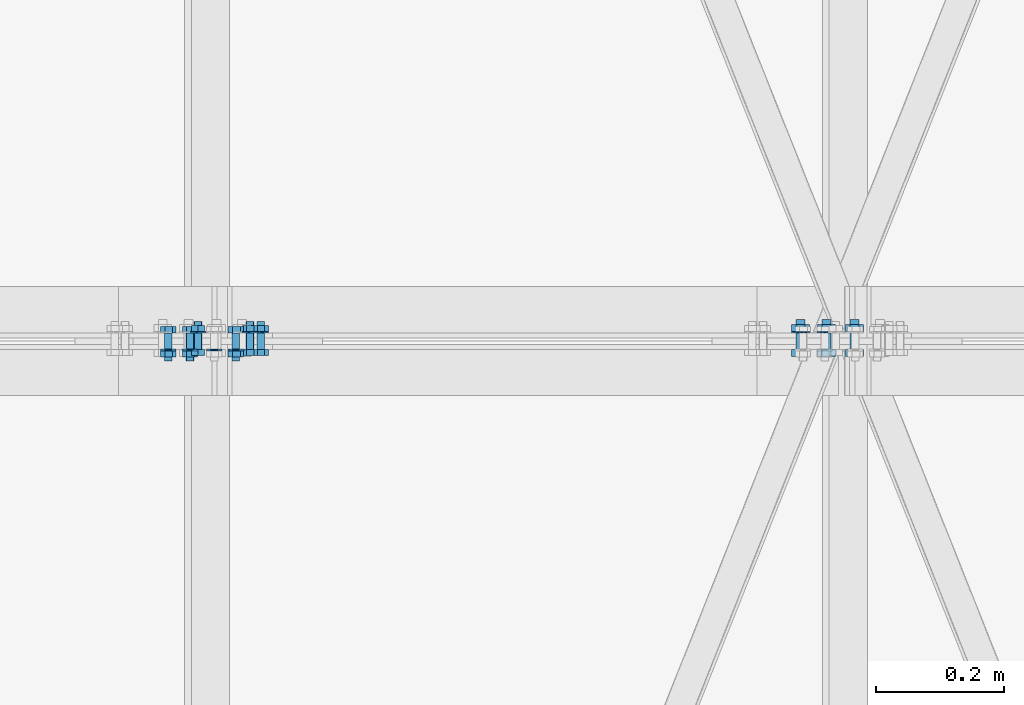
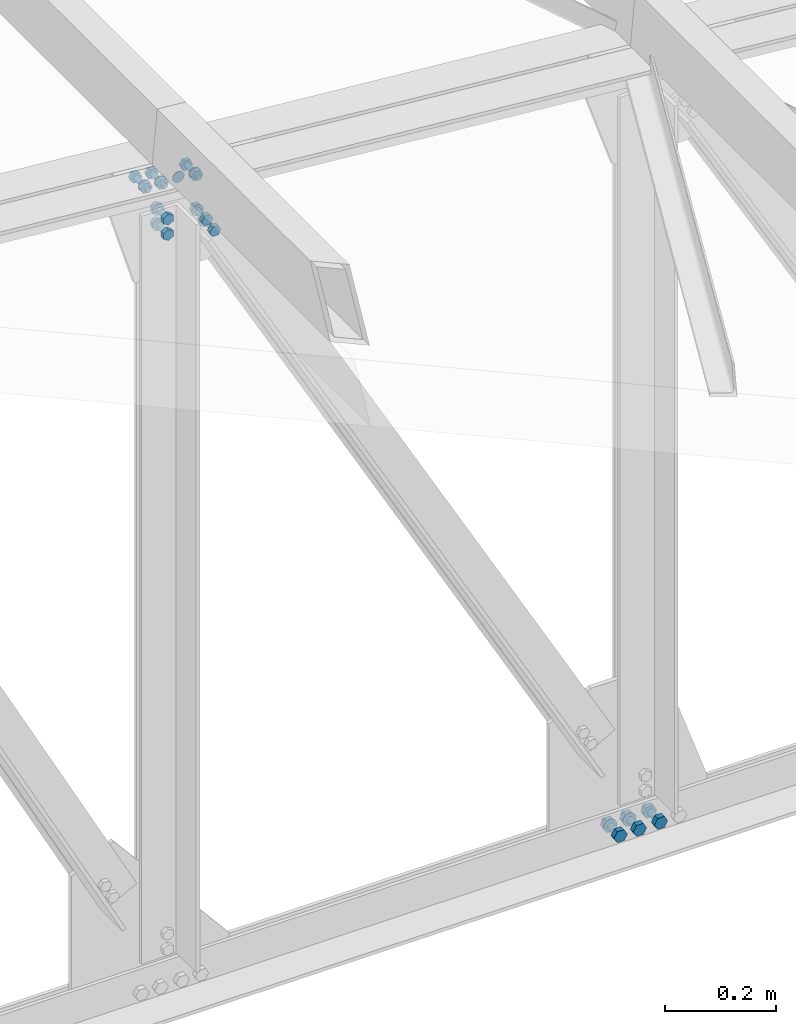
# One storey, part 82 of 251: 40 mechanical fasteners.
"""IFC4 building model written with IfcOpenShell, lengths in metres."""

from ifc_helpers import new_model, si_unit, frame, origin_with_axes, place, context, project, spatial, polyline, outline, extrude, type_object, element, save


model = new_model("IFC4")

# Units and contexts
model_context = context("Model", 3, precision=1e-05, world=origin_with_axes())
ifc_project = project(units=[si_unit("LENGTHUNIT", "METRE"), si_unit("AREAUNIT", "SQUARE_METRE"), si_unit("VOLUMEUNIT", "CUBIC_METRE"), si_unit("MASSUNIT", "GRAM", prefix="KILO"), si_unit("TIMEUNIT", "SECOND"), si_unit("PLANEANGLEUNIT", "RADIAN"), si_unit("SOLIDANGLEUNIT", "STERADIAN"), si_unit("THERMODYNAMICTEMPERATUREUNIT", "DEGREE_CELSIUS")], contexts=[model_context])

# Site, building, storey
placement_1 = place(None, origin_with_axes())
site = spatial("IfcSite", under=ifc_project, at=placement_1, Name="Italia", CompositionType="ELEMENT")
building = spatial("IfcBuilding", under=site, at=placement_1, Name="Deposito", CompositionType="ELEMENT")
storey = spatial("IfcBuildingStorey", under=building, at=placement_1, Name="Storey 0", CompositionType="ELEMENT", Elevation=0.0)

# Mechanical fasteners
mechanical_fastener_type_1 = type_object("IfcMechanicalFastenerType", Name="Reticolare 3", PredefinedType="BOLT")
placement_2 = place(placement_1, origin_with_axes())
mechanical_fastener_1_placement = place(placement_2, origin_with_axes())
element("IfcMechanicalFastener", 1, at=mechanical_fastener_1_placement, inside=storey, type_object=mechanical_fastener_type_1, Name="Reticolare 3", NominalDiameter=0.0139997, context=model_context, shape_type="SweptSolid", body=[
    extrude(outline(polyline([(0.0, 0.0), (-0.0139999, 0.0), (-0.0209999, 0.0121241), (-0.0139999, 0.0242486), (0.0, 0.0242486), (0.00699997, 0.0121241), (0.0, 0.0)])), frame((12.0154, 4.987, 4.99688), z_axis=(0.0, -1.0, 0.0), x_axis=(1.0, 0.0, 0.0)), (0.0, 0.0, 1.0), 0.0112),
])
mechanical_fastener_type_2 = type_object("IfcMechanicalFastenerType", Name="Reticolare 3", PredefinedType="BOLT")
mechanical_fastener_2_placement = place(placement_2, origin_with_axes())
element("IfcMechanicalFastener", 2, at=mechanical_fastener_2_placement, inside=storey, type_object=mechanical_fastener_type_2, Name="Reticolare 3", NominalDiameter=0.014, context=model_context, shape_type="SweptSolid", body=[
    extrude(outline(polyline([(0.0, 0.0), (-0.000238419, -0.0018115), (-0.000937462, -0.00349998), (-0.0020504, -0.00494957), (-0.00349998, -0.00606203), (-0.00518799, -0.00676155), (-0.00699997, -0.00699997), (-0.00881195, -0.00676155), (-0.0105, -0.00606203), (-0.0119495, -0.00494957), (-0.0130625, -0.00349998), (-0.0137615, -0.0018115), (-0.0139999, 0.0), (-0.0137615, 0.0018115), (-0.0130625, 0.00349998), (-0.0119495, 0.00494957), (-0.0105, 0.00606203), (-0.00881195, 0.00676155), (-0.00699997, 0.00699997), (-0.00518799, 0.00676155), (-0.00349998, 0.00606203), (-0.0020504, 0.00494957), (-0.000937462, 0.00349998), (-0.000238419, 0.0018115), (0.0, 0.0)])), frame((12.0154, 5.034, 5.009), z_axis=(0.0, -1.0, 0.0), x_axis=(1.0, 0.0, 0.0)), (0.0, 0.0, 1.0), 0.0469999),
])
mechanical_fastener_type_3 = type_object("IfcMechanicalFastenerType", Name="Reticolare 3", PredefinedType="BOLT")
mechanical_fastener_3_placement = place(placement_2, origin_with_axes())
element("IfcMechanicalFastener", 3, at=mechanical_fastener_3_placement, inside=storey, type_object=mechanical_fastener_type_3, Name="Reticolare 3", NominalDiameter=0.0139997, context=model_context, shape_type="SweptSolid", body=[
    extrude(outline(polyline([(0.0, 0.0), (-0.0139999, 0.0), (-0.0209999, 0.0121241), (-0.0139999, 0.0242486), (0.0, 0.0242486), (0.00699997, 0.0121241), (0.0, 0.0)])), frame((12.0154, 5.0262, 4.99688), z_axis=(0.0, -1.0, 0.0), x_axis=(1.0, 0.0, 0.0)), (0.0, 0.0, 1.0), 0.0112),
])
mechanical_fastener_type_4 = type_object("IfcMechanicalFastenerType", Name="Reticolare 3", PredefinedType="BOLT")
mechanical_fastener_4_placement = place(placement_2, origin_with_axes())
element("IfcMechanicalFastener", 4, at=mechanical_fastener_4_placement, inside=storey, type_object=mechanical_fastener_type_4, Name="Reticolare 3", NominalDiameter=0.028, context=model_context, shape_type="SweptSolid", body=[
    extrude(outline(polyline([(0.0, 0.0), (-0.000476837, -0.00362349), (-0.00187588, -0.00699997), (-0.0041008, -0.00989962), (-0.00699997, -0.0121245), (-0.0103769, -0.0135231), (-0.0139999, -0.0139999), (-0.0176229, -0.0135231), (-0.0209999, -0.0121245), (-0.0238991, -0.00989962), (-0.026124, -0.00699997), (-0.027523, -0.00362349), (-0.0279999, 0.0), (-0.027523, 0.00362349), (-0.026124, 0.00699997), (-0.0238991, 0.00989962), (-0.0209999, 0.0121245), (-0.0176229, 0.0135231), (-0.0139999, 0.0139999), (-0.0103769, 0.0135231), (-0.00699997, 0.0121245), (-0.0041008, 0.00989962), (-0.00187588, 0.00699997), (-0.000476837, 0.00362349), (0.0, 0.0)])), frame((12.0224, 5.015, 5.009), z_axis=(0.0, -1.0, 0.0), x_axis=(1.0, 0.0, 0.0)), (0.0, 0.0, 1.0), 0.00199986),
])
mechanical_fastener_type_5 = type_object("IfcMechanicalFastenerType", Name="Reticolare 3", PredefinedType="BOLT")
mechanical_fastener_5_placement = place(placement_2, origin_with_axes())
element("IfcMechanicalFastener", 5, at=mechanical_fastener_5_placement, inside=storey, type_object=mechanical_fastener_type_5, Name="Reticolare 3", NominalDiameter=0.0139997, context=model_context, shape_type="SweptSolid", body=[
    extrude(outline(polyline([(0.0, 0.0), (-0.0139999, 0.0), (-0.0209999, 0.0121241), (-0.0139999, 0.0242486), (0.0, 0.0242486), (0.00699997, 0.0121241), (0.0, 0.0)])), frame((11.9754, 4.987, 4.99688), z_axis=(0.0, -1.0, 0.0), x_axis=(1.0, 0.0, 0.0)), (0.0, 0.0, 1.0), 0.0112),
])
mechanical_fastener_type_6 = type_object("IfcMechanicalFastenerType", Name="Reticolare 3", PredefinedType="BOLT")
mechanical_fastener_6_placement = place(placement_2, origin_with_axes())
element("IfcMechanicalFastener", 6, at=mechanical_fastener_6_placement, inside=storey, type_object=mechanical_fastener_type_6, Name="Reticolare 3", NominalDiameter=0.014, context=model_context, shape_type="SweptSolid", body=[
    extrude(outline(polyline([(0.0, 0.0), (-0.000238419, -0.0018115), (-0.000937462, -0.00349998), (-0.0020504, -0.00494957), (-0.00349998, -0.00606203), (-0.00518799, -0.00676155), (-0.00699997, -0.00699997), (-0.00881195, -0.00676155), (-0.0105, -0.00606203), (-0.0119495, -0.00494957), (-0.0130625, -0.00349998), (-0.0137615, -0.0018115), (-0.0139999, 0.0), (-0.0137615, 0.0018115), (-0.0130625, 0.00349998), (-0.0119495, 0.00494957), (-0.0105, 0.00606203), (-0.00881195, 0.00676155), (-0.00699997, 0.00699997), (-0.00518799, 0.00676155), (-0.00349998, 0.00606203), (-0.0020504, 0.00494957), (-0.000937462, 0.00349998), (-0.000238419, 0.0018115), (0.0, 0.0)])), frame((11.9754, 5.034, 5.009), z_axis=(0.0, -1.0, 0.0), x_axis=(1.0, 0.0, 0.0)), (0.0, 0.0, 1.0), 0.0469999),
])
mechanical_fastener_type_7 = type_object("IfcMechanicalFastenerType", Name="Reticolare 3", PredefinedType="BOLT")
mechanical_fastener_7_placement = place(placement_2, origin_with_axes())
element("IfcMechanicalFastener", 7, at=mechanical_fastener_7_placement, inside=storey, type_object=mechanical_fastener_type_7, Name="Reticolare 3", NominalDiameter=0.0139997, context=model_context, shape_type="SweptSolid", body=[
    extrude(outline(polyline([(0.0, 0.0), (-0.0139999, 0.0), (-0.0209999, 0.0121241), (-0.0139999, 0.0242486), (0.0, 0.0242486), (0.00699997, 0.0121241), (0.0, 0.0)])), frame((11.9754, 5.0262, 4.99688), z_axis=(0.0, -1.0, 0.0), x_axis=(1.0, 0.0, 0.0)), (0.0, 0.0, 1.0), 0.0112),
])
mechanical_fastener_type_8 = type_object("IfcMechanicalFastenerType", Name="Reticolare 3", PredefinedType="BOLT")
mechanical_fastener_8_placement = place(placement_2, origin_with_axes())
element("IfcMechanicalFastener", 8, at=mechanical_fastener_8_placement, inside=storey, type_object=mechanical_fastener_type_8, Name="Reticolare 3", NominalDiameter=0.028, context=model_context, shape_type="SweptSolid", body=[
    extrude(outline(polyline([(0.0, 0.0), (-0.000476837, -0.00362349), (-0.00187588, -0.00699997), (-0.0041008, -0.00989962), (-0.00699997, -0.0121245), (-0.0103769, -0.0135231), (-0.0139999, -0.0139999), (-0.0176229, -0.0135231), (-0.0209999, -0.0121245), (-0.0238991, -0.00989962), (-0.026124, -0.00699997), (-0.027523, -0.00362349), (-0.0279999, 0.0), (-0.027523, 0.00362349), (-0.026124, 0.00699997), (-0.0238991, 0.00989962), (-0.0209999, 0.0121245), (-0.0176229, 0.0135231), (-0.0139999, 0.0139999), (-0.0103769, 0.0135231), (-0.00699997, 0.0121245), (-0.0041008, 0.00989962), (-0.00187588, 0.00699997), (-0.000476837, 0.00362349), (0.0, 0.0)])), frame((11.9824, 5.015, 5.009), z_axis=(0.0, -1.0, 0.0), x_axis=(1.0, 0.0, 0.0)), (0.0, 0.0, 1.0), 0.00199986),
])
mechanical_fastener_type_9 = type_object("IfcMechanicalFastenerType", Name="Reticolare 3", PredefinedType="BOLT")
mechanical_fastener_9_placement = place(placement_2, origin_with_axes())
element("IfcMechanicalFastener", 9, at=mechanical_fastener_9_placement, inside=storey, type_object=mechanical_fastener_type_9, Name="Reticolare 3", NominalDiameter=0.0139997, context=model_context, shape_type="SweptSolid", body=[
    extrude(outline(polyline([(0.0, 0.0), (-0.0139999, 0.0), (-0.0209999, 0.0121241), (-0.0139999, 0.0242486), (0.0, 0.0242486), (0.00699997, 0.0121241), (0.0, 0.0)])), frame((12.0594, 4.987, 4.99688), z_axis=(0.0, -1.0, 0.0), x_axis=(1.0, 0.0, 0.0)), (0.0, 0.0, 1.0), 0.0112),
])
mechanical_fastener_type_10 = type_object("IfcMechanicalFastenerType", Name="Reticolare 3", PredefinedType="BOLT")
mechanical_fastener_10_placement = place(placement_2, origin_with_axes())
element("IfcMechanicalFastener", 10, at=mechanical_fastener_10_placement, inside=storey, type_object=mechanical_fastener_type_10, Name="Reticolare 3", NominalDiameter=0.014, context=model_context, shape_type="SweptSolid", body=[
    extrude(outline(polyline([(0.0, 0.0), (-0.000238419, -0.0018115), (-0.000937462, -0.00349998), (-0.0020504, -0.00494957), (-0.00349998, -0.00606203), (-0.00518799, -0.00676155), (-0.00699997, -0.00699997), (-0.00881195, -0.00676155), (-0.0105, -0.00606203), (-0.0119495, -0.00494957), (-0.0130625, -0.00349998), (-0.0137615, -0.0018115), (-0.0139999, 0.0), (-0.0137615, 0.0018115), (-0.0130625, 0.00349998), (-0.0119495, 0.00494957), (-0.0105, 0.00606203), (-0.00881195, 0.00676155), (-0.00699997, 0.00699997), (-0.00518799, 0.00676155), (-0.00349998, 0.00606203), (-0.0020504, 0.00494957), (-0.000937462, 0.00349998), (-0.000238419, 0.0018115), (0.0, 0.0)])), frame((12.0594, 5.034, 5.009), z_axis=(0.0, -1.0, 0.0), x_axis=(1.0, 0.0, 0.0)), (0.0, 0.0, 1.0), 0.0469999),
])
mechanical_fastener_type_11 = type_object("IfcMechanicalFastenerType", Name="Reticolare 3", PredefinedType="BOLT")
mechanical_fastener_11_placement = place(placement_2, origin_with_axes())
element("IfcMechanicalFastener", 11, at=mechanical_fastener_11_placement, inside=storey, type_object=mechanical_fastener_type_11, Name="Reticolare 3", NominalDiameter=0.0139997, context=model_context, shape_type="SweptSolid", body=[
    extrude(outline(polyline([(0.0, 0.0), (-0.0139999, 0.0), (-0.0209999, 0.0121241), (-0.0139999, 0.0242486), (0.0, 0.0242486), (0.00699997, 0.0121241), (0.0, 0.0)])), frame((12.0594, 5.0262, 4.99688), z_axis=(0.0, -1.0, 0.0), x_axis=(1.0, 0.0, 0.0)), (0.0, 0.0, 1.0), 0.0112),
])
mechanical_fastener_type_12 = type_object("IfcMechanicalFastenerType", Name="Reticolare 3", PredefinedType="BOLT")
mechanical_fastener_12_placement = place(placement_2, origin_with_axes())
element("IfcMechanicalFastener", 12, at=mechanical_fastener_12_placement, inside=storey, type_object=mechanical_fastener_type_12, Name="Reticolare 3", NominalDiameter=0.024, context=model_context, shape_type="SweptSolid", body=[
    extrude(outline(polyline([(0.0, 0.0), (-0.000409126, -0.00310564), (-0.00160789, -0.00600004), (-0.00351524, -0.00848532), (-0.00600052, -0.0103922), (-0.00889397, -0.011591), (-0.0120001, -0.0120001), (-0.0151062, -0.011591), (-0.0179996, -0.0103922), (-0.0204849, -0.00848532), (-0.0223923, -0.00600004), (-0.023591, -0.00310564), (-0.0240002, 0.0), (-0.023591, 0.00310564), (-0.0223923, 0.00600004), (-0.0204849, 0.00848532), (-0.0179996, 0.0103922), (-0.0151062, 0.011591), (-0.0120001, 0.0120001), (-0.00889397, 0.011591), (-0.00600052, 0.0103922), (-0.00351524, 0.00848532), (-0.00160789, 0.00600004), (-0.000409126, 0.00310564), (0.0, 0.0)])), frame((11.0406, 4.985, 6.77577), z_axis=(0.0, 1.0, 0.0), x_axis=(-1.0, 0.0, 0.0)), (0.0, 0.0, 1.0), 0.00199986),
])
mechanical_fastener_type_13 = type_object("IfcMechanicalFastenerType", Name="Reticolare 3", PredefinedType="BOLT")
mechanical_fastener_13_placement = place(placement_2, origin_with_axes())
element("IfcMechanicalFastener", 13, at=mechanical_fastener_13_placement, inside=storey, type_object=mechanical_fastener_type_13, Name="Reticolare 3", NominalDiameter=0.0119996, context=model_context, shape_type="SweptSolid", body=[
    extrude(outline(polyline([(0.0, 0.0), (0.0119543, 0.0010457), (0.0188379, -0.00878382), (0.0137663, -0.0196595), (0.00181198, -0.0207052), (-0.00507069, -0.0108757), (0.0, 0.0)])), frame((11.0933, 5.013, 6.78264), z_axis=(0.0, 1.0, 0.0), x_axis=(-1.0, 0.0, 0.0)), (0.0, 0.0, 1.0), 0.00960016),
])
mechanical_fastener_type_14 = type_object("IfcMechanicalFastenerType", Name="Reticolare 3", PredefinedType="BOLT")
mechanical_fastener_14_placement = place(placement_2, origin_with_axes())
element("IfcMechanicalFastener", 14, at=mechanical_fastener_14_placement, inside=storey, type_object=mechanical_fastener_type_14, Name="Reticolare 3", NominalDiameter=0.012, context=model_context, shape_type="SweptSolid", body=[
    extrude(outline(polyline([(0.0, 0.0), (-0.000204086, -0.00155306), (-0.000802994, -0.00299978), (-0.00175667, -0.00424242), (-0.00299931, -0.00519609), (-0.00444698, -0.00579548), (-0.00599957, -0.00600004), (-0.00755215, -0.00579548), (-0.00899982, -0.00519609), (-0.0102425, -0.00424242), (-0.0111961, -0.00299978), (-0.011795, -0.00155306), (-0.0119991, 0.0), (-0.011795, 0.00155306), (-0.0111961, 0.00299978), (-0.0102425, 0.00424242), (-0.00899982, 0.00519609), (-0.00755215, 0.00579548), (-0.00599957, 0.00600004), (-0.00444698, 0.00579548), (-0.00299931, 0.00519609), (-0.00175667, 0.00424242), (-0.000802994, 0.00299978), (-0.000204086, 0.00155306), (0.0, 0.0)])), frame((11.0804, 4.969, 6.77281), z_axis=(0.0, 1.0, 0.0), x_axis=(-1.0, 0.0, 0.0)), (0.0, 0.0, 1.0), 0.0440001),
])
mechanical_fastener_type_15 = type_object("IfcMechanicalFastenerType", Name="Reticolare 3", PredefinedType="BOLT")
mechanical_fastener_15_placement = place(placement_2, origin_with_axes())
element("IfcMechanicalFastener", 15, at=mechanical_fastener_15_placement, inside=storey, type_object=mechanical_fastener_type_15, Name="Reticolare 3", NominalDiameter=0.0119996, context=model_context, shape_type="SweptSolid", body=[
    extrude(outline(polyline([(0.0, 0.0), (0.0119543, 0.0010457), (0.0188379, -0.00878382), (0.0137663, -0.0196595), (0.00181198, -0.0207052), (-0.00507069, -0.0108757), (0.0, 0.0)])), frame((11.0933, 4.9754, 6.78264), z_axis=(0.0, 1.0, 0.0), x_axis=(-1.0, 0.0, 0.0)), (0.0, 0.0, 1.0), 0.00960016),
])
mechanical_fastener_type_16 = type_object("IfcMechanicalFastenerType", Name="Reticolare 3", PredefinedType="BOLT")
mechanical_fastener_16_placement = place(placement_2, origin_with_axes())
element("IfcMechanicalFastener", 16, at=mechanical_fastener_16_placement, inside=storey, type_object=mechanical_fastener_type_16, Name="Reticolare 3", NominalDiameter=0.024, context=model_context, shape_type="SweptSolid", body=[
    extrude(outline(polyline([(0.0, 0.0), (-0.000409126, -0.00310564), (-0.00160789, -0.00600004), (-0.00351524, -0.00848532), (-0.00600052, -0.0103922), (-0.00889397, -0.011591), (-0.0120001, -0.0120001), (-0.0151062, -0.011591), (-0.0179996, -0.0103922), (-0.0204849, -0.00848532), (-0.0223923, -0.00600004), (-0.023591, -0.00310564), (-0.0240002, 0.0), (-0.023591, 0.00310564), (-0.0223923, 0.00600004), (-0.0204849, 0.00848532), (-0.0179996, 0.0103922), (-0.0151062, 0.011591), (-0.0120001, 0.0120001), (-0.00889397, 0.011591), (-0.00600052, 0.0103922), (-0.00351524, 0.00848532), (-0.00160789, 0.00600004), (-0.000409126, 0.00310564), (0.0, 0.0)])), frame((11.0744, 4.985, 6.77281), z_axis=(0.0, 1.0, 0.0), x_axis=(-1.0, 0.0, 0.0)), (0.0, 0.0, 1.0), 0.00199986),
])
mechanical_fastener_type_17 = type_object("IfcMechanicalFastenerType", Name="Reticolare 3", PredefinedType="BOLT")
mechanical_fastener_17_placement = place(placement_2, origin_with_axes())
element("IfcMechanicalFastener", 17, at=mechanical_fastener_17_placement, inside=storey, type_object=mechanical_fastener_type_17, Name="Reticolare 3", NominalDiameter=0.0119996, context=model_context, shape_type="SweptSolid", body=[
    extrude(outline(polyline([(0.0, 0.0), (0.0119543, 0.00104618), (0.018837, -0.00878382), (0.0137653, -0.0196595), (0.00181103, -0.0207052), (-0.00507164, -0.0108757), (0.0, 0.0)])), frame((11.0216, 5.013, 6.78891), z_axis=(0.0, 1.0, 0.0), x_axis=(-1.0, 0.0, 0.0)), (0.0, 0.0, 1.0), 0.00960016),
])
mechanical_fastener_type_18 = type_object("IfcMechanicalFastenerType", Name="Reticolare 3", PredefinedType="BOLT")
mechanical_fastener_18_placement = place(placement_2, origin_with_axes())
element("IfcMechanicalFastener", 18, at=mechanical_fastener_18_placement, inside=storey, type_object=mechanical_fastener_type_18, Name="Reticolare 3", NominalDiameter=0.012, context=model_context, shape_type="SweptSolid", body=[
    extrude(outline(polyline([(0.0, 0.0), (-0.000204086, -0.00155306), (-0.000802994, -0.00299978), (-0.00175667, -0.00424242), (-0.00299931, -0.00519609), (-0.00444698, -0.00579548), (-0.00599957, -0.00600004), (-0.00755215, -0.00579548), (-0.00899982, -0.00519609), (-0.0102425, -0.00424242), (-0.0111961, -0.00299978), (-0.011795, -0.00155306), (-0.0119991, 0.0), (-0.011795, 0.00155306), (-0.0111961, 0.00299978), (-0.0102425, 0.00424242), (-0.00899982, 0.00519609), (-0.00755215, 0.00579548), (-0.00599957, 0.00600004), (-0.00444698, 0.00579548), (-0.00299931, 0.00519609), (-0.00175667, 0.00424242), (-0.000802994, 0.00299978), (-0.000204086, 0.00155306), (0.0, 0.0)])), frame((11.0087, 4.969, 6.77908), z_axis=(0.0, 1.0, 0.0), x_axis=(-1.0, 0.0, 0.0)), (0.0, 0.0, 1.0), 0.0440001),
])
mechanical_fastener_type_19 = type_object("IfcMechanicalFastenerType", Name="Reticolare 3", PredefinedType="BOLT")
mechanical_fastener_19_placement = place(placement_2, origin_with_axes())
element("IfcMechanicalFastener", 19, at=mechanical_fastener_19_placement, inside=storey, type_object=mechanical_fastener_type_19, Name="Reticolare 3", NominalDiameter=0.0119996, context=model_context, shape_type="SweptSolid", body=[
    extrude(outline(polyline([(0.0, 0.0), (0.0119543, 0.00104618), (0.018837, -0.00878382), (0.0137653, -0.0196595), (0.00181103, -0.0207052), (-0.00507164, -0.0108757), (0.0, 0.0)])), frame((11.0216, 4.9754, 6.78891), z_axis=(0.0, 1.0, 0.0), x_axis=(-1.0, 0.0, 0.0)), (0.0, 0.0, 1.0), 0.00960016),
])
mechanical_fastener_type_20 = type_object("IfcMechanicalFastenerType", Name="Reticolare 3", PredefinedType="BOLT")
mechanical_fastener_20_placement = place(placement_2, origin_with_axes())
element("IfcMechanicalFastener", 20, at=mechanical_fastener_20_placement, inside=storey, type_object=mechanical_fastener_type_20, Name="Reticolare 3", NominalDiameter=0.024, context=model_context, shape_type="SweptSolid", body=[
    extrude(outline(polyline([(0.0, 0.0), (-0.000409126, -0.00310564), (-0.00160789, -0.00600004), (-0.00351524, -0.00848532), (-0.00600052, -0.0103922), (-0.00889397, -0.011591), (-0.0120001, -0.0120001), (-0.0151062, -0.011591), (-0.0179996, -0.0103922), (-0.0204849, -0.00848532), (-0.0223923, -0.00600004), (-0.023591, -0.00310564), (-0.0240002, 0.0), (-0.023591, 0.00310564), (-0.0223923, 0.00600004), (-0.0204849, 0.00848532), (-0.0179996, 0.0103922), (-0.0151062, 0.011591), (-0.0120001, 0.0120001), (-0.00889397, 0.011591), (-0.00600052, 0.0103922), (-0.00351524, 0.00848532), (-0.00160789, 0.00600004), (-0.000409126, 0.00310564), (0.0, 0.0)])), frame((11.0027, 4.985, 6.77908), z_axis=(0.0, 1.0, 0.0), x_axis=(-1.0, 0.0, 0.0)), (0.0, 0.0, 1.0), 0.00199986),
])
mechanical_fastener_type_21 = type_object("IfcMechanicalFastenerType", Name="Reticolare 3", PredefinedType="BOLT")
mechanical_fastener_21_placement = place(placement_2, origin_with_axes())
element("IfcMechanicalFastener", 21, at=mechanical_fastener_21_placement, inside=storey, type_object=mechanical_fastener_type_21, Name="Reticolare 3", NominalDiameter=0.012, context=model_context, shape_type="SweptSolid", body=[
    extrude(outline(polyline([(0.0, 0.0), (0.0119543, 0.0010457), (0.018837, -0.00878429), (0.0137653, -0.01966), (0.00181103, -0.0207057), (-0.00507164, -0.0108757), (0.0, 0.0)])), frame((10.9877, 5.013, 6.79188), z_axis=(0.0, 1.0, 0.0), x_axis=(-1.0, 0.0, 0.0)), (0.0, 0.0, 1.0), 0.00960016),
])
mechanical_fastener_type_22 = type_object("IfcMechanicalFastenerType", Name="Reticolare 3", PredefinedType="BOLT")
mechanical_fastener_22_placement = place(placement_2, origin_with_axes())
element("IfcMechanicalFastener", 22, at=mechanical_fastener_22_placement, inside=storey, type_object=mechanical_fastener_type_22, Name="Reticolare 3", NominalDiameter=0.012, context=model_context, shape_type="SweptSolid", body=[
    extrude(outline(polyline([(0.0, 0.0), (-0.000204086, -0.00155306), (-0.000802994, -0.00299978), (-0.00175667, -0.00424242), (-0.00299931, -0.00519609), (-0.00444698, -0.00579548), (-0.00599957, -0.00600004), (-0.00755215, -0.00579548), (-0.00899982, -0.00519609), (-0.0102425, -0.00424242), (-0.0111961, -0.00299978), (-0.011795, -0.00155306), (-0.0119991, 0.0), (-0.011795, 0.00155306), (-0.0111961, 0.00299978), (-0.0102425, 0.00424242), (-0.00899982, 0.00519609), (-0.00755215, 0.00579548), (-0.00599957, 0.00600004), (-0.00444698, 0.00579548), (-0.00299931, 0.00519609), (-0.00175667, 0.00424242), (-0.000802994, 0.00299978), (-0.000204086, 0.00155306), (0.0, 0.0)])), frame((10.9748, 4.969, 6.78205), z_axis=(0.0, 1.0, 0.0), x_axis=(-1.0, 0.0, 0.0)), (0.0, 0.0, 1.0), 0.0440001),
])
mechanical_fastener_type_23 = type_object("IfcMechanicalFastenerType", Name="Reticolare 3", PredefinedType="BOLT")
mechanical_fastener_23_placement = place(placement_2, origin_with_axes())
element("IfcMechanicalFastener", 23, at=mechanical_fastener_23_placement, inside=storey, type_object=mechanical_fastener_type_23, Name="Reticolare 3", NominalDiameter=0.012, context=model_context, shape_type="SweptSolid", body=[
    extrude(outline(polyline([(0.0, 0.0), (0.0119543, 0.0010457), (0.018837, -0.00878429), (0.0137653, -0.01966), (0.00181103, -0.0207057), (-0.00507164, -0.0108757), (0.0, 0.0)])), frame((10.9877, 4.9754, 6.79188), z_axis=(0.0, 1.0, 0.0), x_axis=(-1.0, 0.0, 0.0)), (0.0, 0.0, 1.0), 0.00960016),
])
mechanical_fastener_type_24 = type_object("IfcMechanicalFastenerType", Name="Reticolare 3", PredefinedType="BOLT")
mechanical_fastener_24_placement = place(placement_2, origin_with_axes())
element("IfcMechanicalFastener", 24, at=mechanical_fastener_24_placement, inside=storey, type_object=mechanical_fastener_type_24, Name="Reticolare 3", NominalDiameter=0.024, context=model_context, shape_type="SweptSolid", body=[
    extrude(outline(polyline([(0.0, 0.0), (-0.000409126, -0.00310564), (-0.00160789, -0.00600004), (-0.00351524, -0.00848532), (-0.00600052, -0.0103922), (-0.00889397, -0.011591), (-0.0120001, -0.0120001), (-0.0151062, -0.011591), (-0.0179996, -0.0103922), (-0.0204849, -0.00848532), (-0.0223923, -0.00600004), (-0.023591, -0.00310564), (-0.0240002, 0.0), (-0.023591, 0.00310564), (-0.0223923, 0.00600004), (-0.0204849, 0.00848532), (-0.0179996, 0.0103922), (-0.0151062, 0.011591), (-0.0120001, 0.0120001), (-0.00889397, 0.011591), (-0.00600052, 0.0103922), (-0.00351524, 0.00848532), (-0.00160789, 0.00600004), (-0.000409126, 0.00310564), (0.0, 0.0)])), frame((10.9688, 4.985, 6.78205), z_axis=(0.0, 1.0, 0.0), x_axis=(-1.0, 0.0, 0.0)), (0.0, 0.0, 1.0), 0.00199986),
])
mechanical_fastener_type_25 = type_object("IfcMechanicalFastenerType", Name="Reticolare 3", PredefinedType="BOLT")
mechanical_fastener_25_placement = place(placement_2, origin_with_axes())
element("IfcMechanicalFastener", 25, at=mechanical_fastener_25_placement, inside=storey, type_object=mechanical_fastener_type_25, Name="Reticolare 3", NominalDiameter=0.0119999, context=model_context, shape_type="SweptSolid", body=[
    extrude(outline(polyline([(0.0, 0.0), (0.0, -0.0120001), (-0.0103922, -0.0180001), (-0.0207844, -0.0120001), (-0.0207844, 0.0), (-0.0103922, 0.00600004), (0.0, 0.0)])), frame((11.0376, 4.987, 6.70164), z_axis=(0.0, -1.0, 0.0), x_axis=(1.0, 0.0, 0.0)), (0.0, 0.0, 1.0), 0.00960016),
])
mechanical_fastener_type_26 = type_object("IfcMechanicalFastenerType", Name="Reticolare 3", PredefinedType="BOLT")
mechanical_fastener_26_placement = place(placement_2, origin_with_axes())
element("IfcMechanicalFastener", 26, at=mechanical_fastener_26_placement, inside=storey, type_object=mechanical_fastener_type_26, Name="Reticolare 3", NominalDiameter=0.012, context=model_context, shape_type="SweptSolid", body=[
    extrude(outline(polyline([(0.0, 0.0), (-0.000204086, -0.00155306), (-0.000802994, -0.00299978), (-0.00175667, -0.00424242), (-0.00299931, -0.00519609), (-0.00444698, -0.00579548), (-0.00599957, -0.00600004), (-0.00755215, -0.00579548), (-0.00899982, -0.00519609), (-0.0102425, -0.00424242), (-0.0111961, -0.00299978), (-0.011795, -0.00155306), (-0.0119991, 0.0), (-0.011795, 0.00155306), (-0.0111961, 0.00299978), (-0.0102425, 0.00424242), (-0.00899982, 0.00519609), (-0.00755215, 0.00579548), (-0.00599957, 0.00600004), (-0.00444698, 0.00579548), (-0.00299931, 0.00519609), (-0.00175667, 0.00424242), (-0.000802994, 0.00299978), (-0.000204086, 0.00155306), (0.0, 0.0)])), frame((11.0332, 5.031, 6.69564), z_axis=(0.0, -1.0, 0.0), x_axis=(1.0, 0.0, 0.0)), (0.0, 0.0, 1.0), 0.0440001),
])
mechanical_fastener_type_27 = type_object("IfcMechanicalFastenerType", Name="Reticolare 3", PredefinedType="BOLT")
mechanical_fastener_27_placement = place(placement_2, origin_with_axes())
element("IfcMechanicalFastener", 27, at=mechanical_fastener_27_placement, inside=storey, type_object=mechanical_fastener_type_27, Name="Reticolare 3", NominalDiameter=0.0119999, context=model_context, shape_type="SweptSolid", body=[
    extrude(outline(polyline([(0.0, 0.0), (0.0, -0.0120001), (-0.0103922, -0.0180001), (-0.0207844, -0.0120001), (-0.0207844, 0.0), (-0.0103922, 0.00600004), (0.0, 0.0)])), frame((11.0376, 5.0246, 6.70164), z_axis=(0.0, -1.0, 0.0), x_axis=(1.0, 0.0, 0.0)), (0.0, 0.0, 1.0), 0.00960016),
])
mechanical_fastener_type_28 = type_object("IfcMechanicalFastenerType", Name="Reticolare 3", PredefinedType="BOLT")
mechanical_fastener_28_placement = place(placement_2, origin_with_axes())
element("IfcMechanicalFastener", 28, at=mechanical_fastener_28_placement, inside=storey, type_object=mechanical_fastener_type_28, Name="Reticolare 3", NominalDiameter=0.024, context=model_context, shape_type="SweptSolid", body=[
    extrude(outline(polyline([(0.0, 0.0), (-0.000409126, -0.00310564), (-0.00160789, -0.00600004), (-0.00351524, -0.00848532), (-0.00600052, -0.0103922), (-0.00889397, -0.011591), (-0.0120001, -0.0120001), (-0.0151062, -0.011591), (-0.0179996, -0.0103922), (-0.0204849, -0.00848532), (-0.0223923, -0.00600004), (-0.023591, -0.00310564), (-0.0240002, 0.0), (-0.023591, 0.00310564), (-0.0223923, 0.00600004), (-0.0204849, 0.00848532), (-0.0179996, 0.0103922), (-0.0151062, 0.011591), (-0.0120001, 0.0120001), (-0.00889397, 0.011591), (-0.00600052, 0.0103922), (-0.00351524, 0.00848532), (-0.00160789, 0.00600004), (-0.000409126, 0.00310564), (0.0, 0.0)])), frame((11.0392, 5.015, 6.69564), z_axis=(0.0, -1.0, 0.0), x_axis=(1.0, 0.0, 0.0)), (0.0, 0.0, 1.0), 0.00199986),
])
mechanical_fastener_type_29 = type_object("IfcMechanicalFastenerType", Name="Reticolare 3", PredefinedType="BOLT")
mechanical_fastener_29_placement = place(placement_2, origin_with_axes())
element("IfcMechanicalFastener", 29, at=mechanical_fastener_29_placement, inside=storey, type_object=mechanical_fastener_type_29, Name="Reticolare 3", NominalDiameter=0.0119999, context=model_context, shape_type="SweptSolid", body=[
    extrude(outline(polyline([(0.0, 0.0), (0.0, -0.0120001), (-0.0103922, -0.0180001), (-0.0207844, -0.0120001), (-0.0207844, 0.0), (-0.0103922, 0.00600004), (0.0, 0.0)])), frame((11.0376, 4.987, 6.66764), z_axis=(0.0, -1.0, 0.0), x_axis=(1.0, 0.0, 0.0)), (0.0, 0.0, 1.0), 0.00960016),
])
mechanical_fastener_type_30 = type_object("IfcMechanicalFastenerType", Name="Reticolare 3", PredefinedType="BOLT")
mechanical_fastener_30_placement = place(placement_2, origin_with_axes())
element("IfcMechanicalFastener", 30, at=mechanical_fastener_30_placement, inside=storey, type_object=mechanical_fastener_type_30, Name="Reticolare 3", NominalDiameter=0.012, context=model_context, shape_type="SweptSolid", body=[
    extrude(outline(polyline([(0.0, 0.0), (-0.000204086, -0.00155306), (-0.000802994, -0.00299978), (-0.00175667, -0.00424242), (-0.00299931, -0.00519609), (-0.00444698, -0.00579548), (-0.00599957, -0.00600004), (-0.00755215, -0.00579548), (-0.00899982, -0.00519609), (-0.0102425, -0.00424242), (-0.0111961, -0.00299978), (-0.011795, -0.00155306), (-0.0119991, 0.0), (-0.011795, 0.00155306), (-0.0111961, 0.00299978), (-0.0102425, 0.00424242), (-0.00899982, 0.00519609), (-0.00755215, 0.00579548), (-0.00599957, 0.00600004), (-0.00444698, 0.00579548), (-0.00299931, 0.00519609), (-0.00175667, 0.00424242), (-0.000802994, 0.00299978), (-0.000204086, 0.00155306), (0.0, 0.0)])), frame((11.0332, 5.031, 6.66164), z_axis=(0.0, -1.0, 0.0), x_axis=(1.0, 0.0, 0.0)), (0.0, 0.0, 1.0), 0.0440001),
])
mechanical_fastener_type_31 = type_object("IfcMechanicalFastenerType", Name="Reticolare 3", PredefinedType="BOLT")
mechanical_fastener_31_placement = place(placement_2, origin_with_axes())
element("IfcMechanicalFastener", 31, at=mechanical_fastener_31_placement, inside=storey, type_object=mechanical_fastener_type_31, Name="Reticolare 3", NominalDiameter=0.0119999, context=model_context, shape_type="SweptSolid", body=[
    extrude(outline(polyline([(0.0, 0.0), (0.0, -0.0120001), (-0.0103922, -0.0180001), (-0.0207844, -0.0120001), (-0.0207844, 0.0), (-0.0103922, 0.00600004), (0.0, 0.0)])), frame((11.0376, 5.0246, 6.66764), z_axis=(0.0, -1.0, 0.0), x_axis=(1.0, 0.0, 0.0)), (0.0, 0.0, 1.0), 0.00960016),
])
mechanical_fastener_type_32 = type_object("IfcMechanicalFastenerType", Name="Reticolare 3", PredefinedType="BOLT")
mechanical_fastener_32_placement = place(placement_2, origin_with_axes())
element("IfcMechanicalFastener", 32, at=mechanical_fastener_32_placement, inside=storey, type_object=mechanical_fastener_type_32, Name="Reticolare 3", NominalDiameter=0.024, context=model_context, shape_type="SweptSolid", body=[
    extrude(outline(polyline([(0.0, 0.0), (-0.000409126, -0.00310564), (-0.00160789, -0.00600004), (-0.00351524, -0.00848532), (-0.00600052, -0.0103922), (-0.00889397, -0.011591), (-0.0120001, -0.0120001), (-0.0151062, -0.011591), (-0.0179996, -0.0103922), (-0.0204849, -0.00848532), (-0.0223923, -0.00600004), (-0.023591, -0.00310564), (-0.0240002, 0.0), (-0.023591, 0.00310564), (-0.0223923, 0.00600004), (-0.0204849, 0.00848532), (-0.0179996, 0.0103922), (-0.0151062, 0.011591), (-0.0120001, 0.0120001), (-0.00889397, 0.011591), (-0.00600052, 0.0103922), (-0.00351524, 0.00848532), (-0.00160789, 0.00600004), (-0.000409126, 0.00310564), (0.0, 0.0)])), frame((11.0392, 5.015, 6.66164), z_axis=(0.0, -1.0, 0.0), x_axis=(1.0, 0.0, 0.0)), (0.0, 0.0, 1.0), 0.00199986),
])
mechanical_fastener_type_33 = type_object("IfcMechanicalFastenerType", Name="Reticolare 3", PredefinedType="BOLT")
mechanical_fastener_33_placement = place(placement_2, origin_with_axes())
element("IfcMechanicalFastener", 33, at=mechanical_fastener_33_placement, inside=storey, type_object=mechanical_fastener_type_33, Name="Reticolare 3", NominalDiameter=0.0119994, context=model_context, shape_type="SweptSolid", body=[
    extrude(outline(polyline([(0.0, 0.0), (-0.00584984, 0.010478), (0.000299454, 0.0207825), (0.0122976, 0.0206094), (0.0181475, 0.0101318), (0.0119982, -0.000173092), (0.0, 0.0)])), frame((11.1023, 4.987, 6.65557), z_axis=(0.0, -1.0, 0.0), x_axis=(1.0, 0.0, 0.0)), (0.0, 0.0, 1.0), 0.00960016),
])
mechanical_fastener_type_34 = type_object("IfcMechanicalFastenerType", Name="Reticolare 3", PredefinedType="BOLT")
mechanical_fastener_34_placement = place(placement_2, origin_with_axes())
element("IfcMechanicalFastener", 34, at=mechanical_fastener_34_placement, inside=storey, type_object=mechanical_fastener_type_34, Name="Reticolare 3", NominalDiameter=0.012, context=model_context, shape_type="SweptSolid", body=[
    extrude(outline(polyline([(0.0, 0.0), (-0.000204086, -0.00155306), (-0.000802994, -0.00299978), (-0.00175667, -0.00424242), (-0.00299931, -0.00519609), (-0.00444698, -0.00579548), (-0.00599957, -0.00600004), (-0.00755215, -0.00579548), (-0.00899982, -0.00519609), (-0.0102425, -0.00424242), (-0.0111961, -0.00299978), (-0.011795, -0.00155306), (-0.0119991, 0.0), (-0.011795, 0.00155306), (-0.0111961, 0.00299978), (-0.0102425, 0.00424242), (-0.00899982, 0.00519609), (-0.00755215, 0.00579548), (-0.00599957, 0.00600004), (-0.00444698, 0.00579548), (-0.00299931, 0.00519609), (-0.00175667, 0.00424242), (-0.000802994, 0.00299978), (-0.000204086, 0.00155306), (0.0, 0.0)])), frame((11.1144, 5.031, 6.66588), z_axis=(0.0, -1.0, 0.0), x_axis=(1.0, 0.0, 0.0)), (0.0, 0.0, 1.0), 0.0440001),
])
mechanical_fastener_type_35 = type_object("IfcMechanicalFastenerType", Name="Reticolare 3", PredefinedType="BOLT")
mechanical_fastener_35_placement = place(placement_2, origin_with_axes())
element("IfcMechanicalFastener", 35, at=mechanical_fastener_35_placement, inside=storey, type_object=mechanical_fastener_type_35, Name="Reticolare 3", NominalDiameter=0.0119994, context=model_context, shape_type="SweptSolid", body=[
    extrude(outline(polyline([(0.0, 0.0), (-0.00584984, 0.010478), (0.000299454, 0.0207825), (0.0122976, 0.0206094), (0.0181475, 0.0101318), (0.0119982, -0.000173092), (0.0, 0.0)])), frame((11.1023, 5.0246, 6.65557), z_axis=(0.0, -1.0, 0.0), x_axis=(1.0, 0.0, 0.0)), (0.0, 0.0, 1.0), 0.00960016),
])
mechanical_fastener_type_36 = type_object("IfcMechanicalFastenerType", Name="Reticolare 3", PredefinedType="BOLT")
mechanical_fastener_36_placement = place(placement_2, origin_with_axes())
element("IfcMechanicalFastener", 36, at=mechanical_fastener_36_placement, inside=storey, type_object=mechanical_fastener_type_36, Name="Reticolare 3", NominalDiameter=0.024, context=model_context, shape_type="SweptSolid", body=[
    extrude(outline(polyline([(0.0, 0.0), (-0.000409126, -0.00310564), (-0.00160789, -0.00600004), (-0.00351524, -0.00848532), (-0.00600052, -0.0103922), (-0.00889397, -0.011591), (-0.0120001, -0.0120001), (-0.0151062, -0.011591), (-0.0179996, -0.0103922), (-0.0204849, -0.00848532), (-0.0223923, -0.00600004), (-0.023591, -0.00310564), (-0.0240002, 0.0), (-0.023591, 0.00310564), (-0.0223923, 0.00600004), (-0.0204849, 0.00848532), (-0.0179996, 0.0103922), (-0.0151062, 0.011591), (-0.0120001, 0.0120001), (-0.00889397, 0.011591), (-0.00600052, 0.0103922), (-0.00351524, 0.00848532), (-0.00160789, 0.00600004), (-0.000409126, 0.00310564), (0.0, 0.0)])), frame((11.1204, 5.015, 6.66588), z_axis=(0.0, -1.0, 0.0), x_axis=(1.0, 0.0, 0.0)), (0.0, 0.0, 1.0), 0.00199986),
])
mechanical_fastener_type_37 = type_object("IfcMechanicalFastenerType", Name="Reticolare 3", PredefinedType="BOLT")
mechanical_fastener_37_placement = place(placement_2, origin_with_axes())
element("IfcMechanicalFastener", 37, at=mechanical_fastener_37_placement, inside=storey, type_object=mechanical_fastener_type_37, Name="Reticolare 3", NominalDiameter=0.0119994, context=model_context, shape_type="SweptSolid", body=[
    extrude(outline(polyline([(0.0, 0.0), (-0.00584888, 0.010478), (0.000300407, 0.0207825), (0.0122986, 0.0206094), (0.0181484, 0.0101318), (0.0119991, -0.000173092), (0.0, 0.0)])), frame((11.1189, 4.987, 6.62588), z_axis=(0.0, -1.0, 0.0), x_axis=(1.0, 0.0, 0.0)), (0.0, 0.0, 1.0), 0.00960016),
])
mechanical_fastener_type_38 = type_object("IfcMechanicalFastenerType", Name="Reticolare 3", PredefinedType="BOLT")
mechanical_fastener_38_placement = place(placement_2, origin_with_axes())
element("IfcMechanicalFastener", 38, at=mechanical_fastener_38_placement, inside=storey, type_object=mechanical_fastener_type_38, Name="Reticolare 3", NominalDiameter=0.012, context=model_context, shape_type="SweptSolid", body=[
    extrude(outline(polyline([(0.0, 0.0), (-0.000204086, -0.00155306), (-0.000802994, -0.00299978), (-0.00175667, -0.00424242), (-0.00299931, -0.00519609), (-0.00444698, -0.00579548), (-0.00599957, -0.00600004), (-0.00755215, -0.00579548), (-0.00899982, -0.00519609), (-0.0102425, -0.00424242), (-0.0111961, -0.00299978), (-0.011795, -0.00155306), (-0.0119991, 0.0), (-0.011795, 0.00155306), (-0.0111961, 0.00299978), (-0.0102425, 0.00424242), (-0.00899982, 0.00519609), (-0.00755215, 0.00579548), (-0.00599957, 0.00600004), (-0.00444698, 0.00579548), (-0.00299931, 0.00519609), (-0.00175667, 0.00424242), (-0.000802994, 0.00299978), (-0.000204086, 0.00155306), (0.0, 0.0)])), frame((11.131, 5.031, 6.63619), z_axis=(0.0, -1.0, 0.0), x_axis=(1.0, 0.0, 0.0)), (0.0, 0.0, 1.0), 0.0440001),
])
mechanical_fastener_type_39 = type_object("IfcMechanicalFastenerType", Name="Reticolare 3", PredefinedType="BOLT")
mechanical_fastener_39_placement = place(placement_2, origin_with_axes())
element("IfcMechanicalFastener", 39, at=mechanical_fastener_39_placement, inside=storey, type_object=mechanical_fastener_type_39, Name="Reticolare 3", NominalDiameter=0.0119994, context=model_context, shape_type="SweptSolid", body=[
    extrude(outline(polyline([(0.0, 0.0), (-0.00584888, 0.010478), (0.000300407, 0.0207825), (0.0122986, 0.0206094), (0.0181484, 0.0101318), (0.0119991, -0.000173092), (0.0, 0.0)])), frame((11.1189, 5.0246, 6.62588), z_axis=(0.0, -1.0, 0.0), x_axis=(1.0, 0.0, 0.0)), (0.0, 0.0, 1.0), 0.00960016),
])
mechanical_fastener_type_40 = type_object("IfcMechanicalFastenerType", Name="Reticolare 3", PredefinedType="BOLT")
mechanical_fastener_40_placement = place(placement_2, origin_with_axes())
element("IfcMechanicalFastener", 40, at=mechanical_fastener_40_placement, inside=storey, type_object=mechanical_fastener_type_40, Name="Reticolare 3", NominalDiameter=0.024, context=model_context, shape_type="SweptSolid", body=[
    extrude(outline(polyline([(0.0, 0.0), (-0.000409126, -0.00310564), (-0.00160789, -0.00600004), (-0.00351524, -0.00848532), (-0.00600052, -0.0103922), (-0.00889397, -0.011591), (-0.0120001, -0.0120001), (-0.0151062, -0.011591), (-0.0179996, -0.0103922), (-0.0204849, -0.00848532), (-0.0223923, -0.00600004), (-0.023591, -0.00310564), (-0.0240002, 0.0), (-0.023591, 0.00310564), (-0.0223923, 0.00600004), (-0.0204849, 0.00848532), (-0.0179996, 0.0103922), (-0.0151062, 0.011591), (-0.0120001, 0.0120001), (-0.00889397, 0.011591), (-0.00600052, 0.0103922), (-0.00351524, 0.00848532), (-0.00160789, 0.00600004), (-0.000409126, 0.00310564), (0.0, 0.0)])), frame((11.137, 5.015, 6.63619), z_axis=(0.0, -1.0, 0.0), x_axis=(1.0, 0.0, 0.0)), (0.0, 0.0, 1.0), 0.00199986),
])

save(model, "model.ifc")
